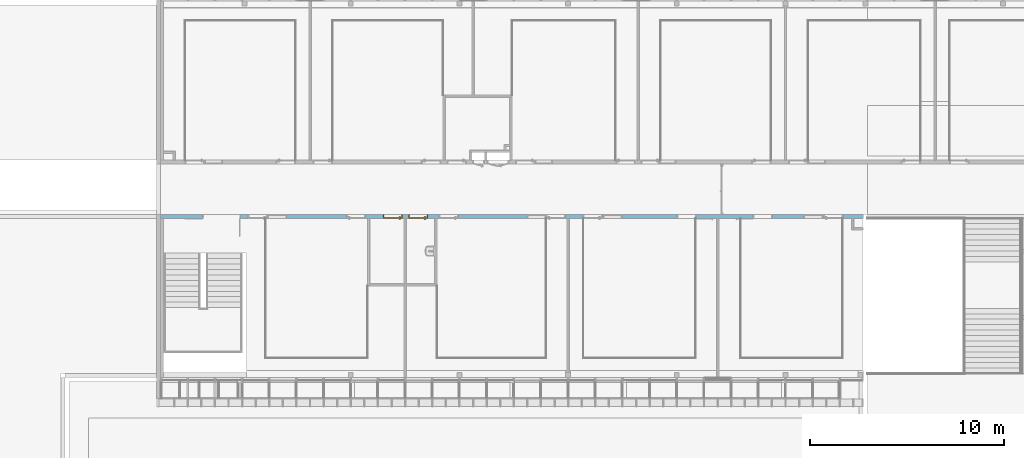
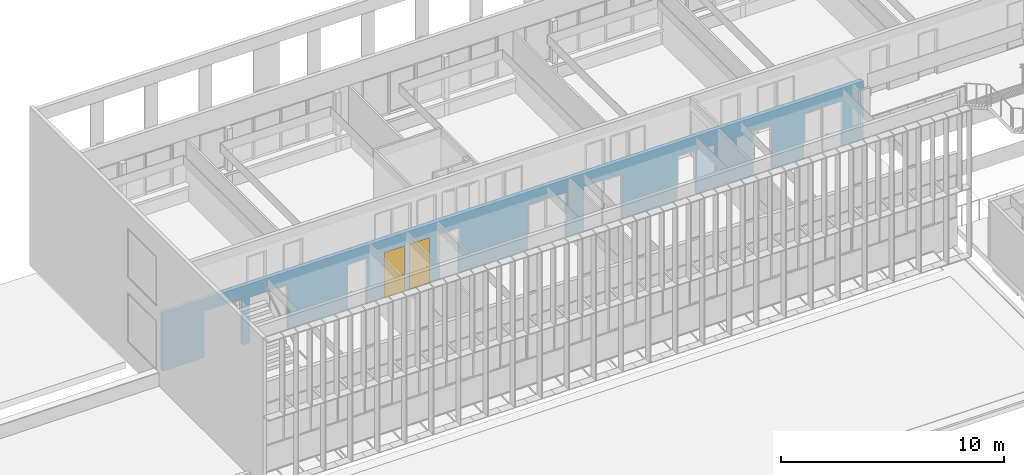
# One storey, part 41 of 106: 2 doors, 15 openings, plus 1 element that does not belong to this part.
"""IFC2X3 building model written with IfcOpenShell, lengths in centimetres."""

import ifcopenshell
import ifcopenshell.guid

model = None  # the IFC model being written
_history = None  # IfcOwnerHistory: only IFC2X3 demands one
_inside = {}  # id of a spatial element -> (the spatial element, [elements in it])
_under = {}  # id of a project, library or spatial element -> (it, [spatial elements below it])
_declared = {}  # id of a project -> (the project, [libraries it declares])
_typed = {}  # id of a type object -> (the type object, [elements of that type])
_made_of = {}  # id of a material, layer set ... -> (it, [elements and type objects made of it])


def new_model(schema):
    """Start an empty IFC model of exactly this schema.

    Asked for "IFC4X3", IfcOpenShell would pick the latest addendum, in which some entities
    have other attributes; the version numbers below select the first issue.
    IFC2X3 requires an IfcOwnerHistory on every rooted entity: one is made here for all.
    """
    global model, _history
    if schema == "IFC4X3":
        model = ifcopenshell.file(schema_version=(4, 3, 0, 0))
    else:
        model = ifcopenshell.file(schema=schema)
    _inside.clear()
    _under.clear()
    _declared.clear()
    _typed.clear()
    _made_of.clear()
    _history = None
    if model.schema == "IFC2X3":
        org = make("IfcOrganization", Name="unknown")
        user = make(
            "IfcPersonAndOrganization",
            ThePerson=make("IfcPerson", FamilyName="unknown"),
            TheOrganization=org,
        )
        app = make(
            "IfcApplication",
            ApplicationDeveloper=org,
            Version="unknown",
            ApplicationFullName="unknown",
            ApplicationIdentifier="unknown",
        )
        _history = make(
            "IfcOwnerHistory",
            OwningUser=user,
            OwningApplication=app,
            ChangeAction="ADDED",
            CreationDate=0,
        )
    return model


def make(cls, **values):
    """One entity of the class cls with the attributes given. An attribute that is None is left unset."""
    return model.create_entity(
        cls, **{name: value for name, value in values.items() if value is not None}
    )


def entity(cls, *values):
    """Any entity or typed value of the class cls, its attributes in the order of the schema. None: left unset."""
    e = model.create_entity(cls)
    for i, value in enumerate(values):
        if value is not None:
            e[i] = value
    return e


def rooted(cls, **values):
    """An entity with a GlobalId (a new one), such as an element, a storey or a relation."""
    return make(cls, GlobalId=ifcopenshell.guid.new(), OwnerHistory=_history, **values)


def si_unit(unit_type, name, prefix=None):
    """IfcSIUnit, for example si_unit("LENGTHUNIT", "METRE", prefix="MILLI")."""
    return make("IfcSIUnit", UnitType=unit_type, Prefix=prefix, Name=name)


def converted_unit(unit_type, name, factor, base, dimensions=None, offset=None):
    """IfcConversionBasedUnit, such as the inch: factor (a typed value) times the base unit."""
    return make(
        "IfcConversionBasedUnit"
        if offset is None
        else "IfcConversionBasedUnitWithOffset",
        ConversionOffset=offset,
        Dimensions=None
        if dimensions is None
        else entity("IfcDimensionalExponents", *dimensions),
        UnitType=unit_type,
        Name=name,
        ConversionFactor=make(
            "IfcMeasureWithUnit", ValueComponent=factor, UnitComponent=base
        ),
    )


def derived_unit(unit_type, elements):
    """IfcDerivedUnit: a product of units, each with its exponent."""
    return make(
        "IfcDerivedUnit",
        Elements=[
            make("IfcDerivedUnitElement", Unit=unit, Exponent=power)
            for unit, power in elements
        ],
        UnitType=unit_type,
    )


def assignment(units):
    """IfcUnitAssignment: the units of a project."""
    return None if units is None else make("IfcUnitAssignment", Units=units)


def point(xyz):
    """IfcCartesianPoint."""
    return None if xyz is None else make("IfcCartesianPoint", Coordinates=xyz)


def direction(xyz):
    """IfcDirection."""
    return None if xyz is None else make("IfcDirection", DirectionRatios=xyz)


def frame(location, z_axis=None, x_axis=None):
    """IfcAxis2Placement3D, a coordinate frame: its origin and axes. An axis left out is left unset."""
    return make(
        "IfcAxis2Placement3D",
        Location=point(location),
        Axis=direction(z_axis),
        RefDirection=direction(x_axis),
    )


def frame_2d(location, x_axis=None):
    """IfcAxis2Placement2D, a coordinate frame in the plane: its origin and x axis."""
    return make(
        "IfcAxis2Placement2D", Location=point(location), RefDirection=direction(x_axis)
    )


def origin():
    """The frame at (0, 0, 0) with its axes left unset."""
    return frame((0.0, 0.0, 0.0))


def place(relative_to, where):
    """IfcLocalPlacement: puts the frame where relative to a parent placement (None: the world)."""
    return make(
        "IfcLocalPlacement", PlacementRelTo=relative_to, RelativePlacement=where
    )


def context(
    kind, dimensions, precision=None, world=None, true_north=None, identifier=None
):
    """IfcGeometricRepresentationContext, for example the 3D "Model" context."""
    return make(
        "IfcGeometricRepresentationContext",
        ContextIdentifier=identifier,
        ContextType=kind,
        CoordinateSpaceDimension=dimensions,
        Precision=precision,
        WorldCoordinateSystem=world,
        TrueNorth=true_north,
    )


def subcontext(parent, identifier, kind, view, scale=None):
    """IfcGeometricRepresentationSubContext, for example "Body" below "Model"."""
    return make(
        "IfcGeometricRepresentationSubContext",
        ContextIdentifier=identifier,
        ContextType=kind,
        ParentContext=parent,
        TargetScale=scale,
        TargetView=view,
    )


def project(units=None, contexts=None):
    """IfcProject with its units and contexts."""
    return rooted(
        "IfcProject",
        Name="project",
        RepresentationContexts=contexts,
        UnitsInContext=assignment(units),
    )


def spatial(cls, under=None, at=None, **own):
    """A site, building, storey or space (cls), placed at a placement, below another one or the project."""
    s = rooted(cls, ObjectPlacement=at, **own)
    if under is not None:
        _under.setdefault(under.id(), (under, []))[1].append(s)
    return s


def polyline(points):
    """IfcPolyline through the points."""
    return make("IfcPolyline", Points=[point(p) for p in points])


def profile(cls, at=None, kind="AREA", **sizes):
    """A parametric profile (cls). Its sizes go by their IFC names, for example OverallWidth=200.0."""
    return make(cls, ProfileType=kind, Position=at, **sizes)


def rectangle(**sizes):
    """IfcRectangleProfileDef."""
    return profile("IfcRectangleProfileDef", **sizes)


def extrude(swept, where, along, depth):
    """IfcExtrudedAreaSolid: the profile swept, set in the frame where, extruded along a direction by depth."""
    return make(
        "IfcExtrudedAreaSolid",
        SweptArea=swept,
        Position=where,
        ExtrudedDirection=direction(along),
        Depth=depth,
    )


def clip(a, b, op="DIFFERENCE"):
    """IfcBooleanClippingResult: the solid a cut by the half space b."""
    return make(
        "IfcBooleanClippingResult", Operator=op, FirstOperand=a, SecondOperand=b
    )


def bounded_halfspace(plane, agree, where, boundary):
    """IfcPolygonalBoundedHalfSpace: a half space limited to a polygon's prism."""
    return make(
        "IfcPolygonalBoundedHalfSpace",
        BaseSurface=make("IfcPlane", Position=plane),
        AgreementFlag=agree,
        Position=where,
        PolygonalBoundary=boundary,
    )


def faces_of(points, faces, orient=None, outer=None):
    """IfcFace entities. A face is a list of loops; a loop is a list of indices into points, from 0.

    orient and outer hold one flag for each loop. By default every Orientation is true, the
    first loop of a face is its IfcFaceOuterBound and the others are IfcFaceBound.
    """
    made = []
    for i, loops in enumerate(faces):
        bounds = []
        for j, loop in enumerate(loops):
            is_outer = j == 0 if outer is None else outer[i][j]
            bounds.append(
                make(
                    "IfcFaceOuterBound" if is_outer else "IfcFaceBound",
                    Bound=make("IfcPolyLoop", Polygon=[points[k] for k in loop]),
                    Orientation=True if orient is None else orient[i][j],
                )
            )
        made.append(make("IfcFace", Bounds=bounds))
    return made


def faceted_brep(points, faces, orient=None, outer=None, voids=None):
    """IfcFacetedBrep: a solid bounded by flat faces; with voids (closed shells), ...WithVoids."""
    shared = [point(p) for p in points]
    hull = make("IfcClosedShell", CfsFaces=faces_of(shared, faces, orient, outer))
    if voids is None:
        return make("IfcFacetedBrep", Outer=hull)
    return make(
        "IfcFacetedBrepWithVoids",
        Outer=hull,
        Voids=[
            make(cls, CfsFaces=faces_of(shared, fs, o, b)) for cls, fs, o, b in voids
        ],
    )


def shape(context_of_items, identifier, shape_type, items):
    """IfcShapeRepresentation: the items that make up one representation, for example the "Body"."""
    return make(
        "IfcShapeRepresentation",
        ContextOfItems=context_of_items,
        RepresentationIdentifier=identifier,
        RepresentationType=shape_type,
        Items=items,
    )


def source(mapping_origin, context_of_items, identifier, shape_type, items):
    """IfcRepresentationMap: a shape defined once, which mapped items show again and again."""
    return make(
        "IfcRepresentationMap",
        MappingOrigin=mapping_origin,
        MappedRepresentation=shape(context_of_items, identifier, shape_type, items),
    )


def transform(
    local_origin,
    x_axis=None,
    y_axis=None,
    z_axis=None,
    scale=None,
    scale2=None,
    scale3=None,
    uniform=True,
):
    """IfcCartesianTransformationOperator3D, or its non-uniform kind. x_axis, y_axis, z_axis: its Axis1, 2, 3."""
    if uniform:
        return make(
            "IfcCartesianTransformationOperator3D",
            Axis1=direction(x_axis),
            Axis2=direction(y_axis),
            LocalOrigin=point(local_origin),
            Scale=scale,
            Axis3=direction(z_axis),
        )
    return make(
        "IfcCartesianTransformationOperator3DnonUniform",
        Axis1=direction(x_axis),
        Axis2=direction(y_axis),
        LocalOrigin=point(local_origin),
        Scale=scale,
        Axis3=direction(z_axis),
        Scale2=scale2,
        Scale3=scale3,
    )


def mapped(mapping_source, mapping_target):
    """IfcMappedItem: shows the shape of a source again, moved by a transform."""
    return make(
        "IfcMappedItem", MappingSource=mapping_source, MappingTarget=mapping_target
    )


def material(Name=None, Category=None):
    """IfcMaterial."""
    return make("IfcMaterial", Name=Name, Category=Category)


def material_list(materials):
    """IfcMaterialList."""
    return make("IfcMaterialList", Materials=materials)


def layer(
    of_material, thickness, ventilated=None, Name=None, Category=None, Priority=None
):
    """IfcMaterialLayer: one layer of a wall or slab, of a material (None: an air gap)."""
    return make(
        "IfcMaterialLayer",
        Material=of_material,
        LayerThickness=thickness,
        IsVentilated=ventilated,
        Name=Name,
        Category=Category,
        Priority=Priority,
    )


def layer_set(layers, Name=None):
    """IfcMaterialLayerSet."""
    return make("IfcMaterialLayerSet", MaterialLayers=layers, LayerSetName=Name)


def layer_usage(for_layer_set, set_direction, sense, offset, extent=None):
    """IfcMaterialLayerSetUsage: how a layer set lies in its element."""
    return make(
        "IfcMaterialLayerSetUsage",
        ForLayerSet=for_layer_set,
        LayerSetDirection=set_direction,
        DirectionSense=sense,
        OffsetFromReferenceLine=offset,
        ReferenceExtent=extent,
    )


def made_of(thing, what):
    """Note that an element or type object is made of a material, layer set ...; save() writes the relation."""
    if what is not None:
        _made_of.setdefault(what.id(), (what, []))[1].append(thing)
    return thing


def type_object(cls, material=None, **own):
    """A type object (cls), such as IfcWallType, which elements share."""
    return made_of(rooted(cls, **own), material)


def type_shapes(of_type, sources):
    """Give a type object the sources (RepresentationMaps) that its elements show as mapped items."""
    of_type.RepresentationMaps = sources


def element(
    cls,
    number,
    at=None,
    inside=None,
    cuts=None,
    type_object=None,
    material=None,
    context=None,
    identifier="Body",
    shape_type=None,
    held_by="IfcProductDefinitionShape",
    body=None,
    shapes=None,
    **own,
):
    """One element of the class cls, such as IfcWall. Its Tag is "e" and its number.

    at: its placement. inside: the storey or other place that contains it. cuts: it is an
    opening in that element (IfcRelVoidsElement). A single representation is given by context,
    identifier, shape_type and body (its items); several are given by shapes. held_by: the class
    of the entity that holds the representations. save() writes the other relations.
    """
    e = rooted(cls, Tag="e%d" % number, ObjectPlacement=at, **own)
    if body is not None:
        shapes = [shape(context, identifier, shape_type, body)]
    if shapes is not None:
        e.Representation = make(held_by, Representations=shapes)
    if inside is not None:
        _inside.setdefault(inside.id(), (inside, []))[1].append(e)
    if cuts is not None:
        rooted(
            "IfcRelVoidsElement", RelatingBuildingElement=cuts, RelatedOpeningElement=e
        )
    if type_object is not None:
        _typed.setdefault(type_object.id(), (type_object, []))[1].append(e)
    return made_of(e, material)


def fill(opening, filler):
    """IfcRelFillsElement: the door or window that sits in an opening."""
    return rooted(
        "IfcRelFillsElement",
        RelatingOpeningElement=opening,
        RelatedBuildingElement=filler,
    )


def aggregate(whole, parts):
    """IfcRelAggregates: a whole, such as a stair, and the parts it consists of."""
    return rooted("IfcRelAggregates", RelatingObject=whole, RelatedObjects=parts)


def save(model, path):
    """Write the relations noted so far, then the file.

    IfcRelAggregates (storeys below a building ...), IfcRelContainedInSpatialStructure (elements
    in a storey), IfcRelDefinesByType, IfcRelAssociatesMaterial and IfcRelDeclares: one each for
    every whole, place, type object, material and project.
    """
    for whole, parts in _under.values():
        aggregate(whole, parts)
    for where, things in _inside.values():
        rooted(
            "IfcRelContainedInSpatialStructure",
            RelatedElements=things,
            RelatingStructure=where,
        )
    for kind, things in _typed.values():
        rooted("IfcRelDefinesByType", RelatedObjects=things, RelatingType=kind)
    for what, things in _made_of.values():
        rooted("IfcRelAssociatesMaterial", RelatedObjects=things, RelatingMaterial=what)
    for by, libraries in _declared.values():
        rooted("IfcRelDeclares", RelatingContext=by, RelatedDefinitions=libraries)
    model.write(path)


model = new_model("IFC2X3")

# Units and contexts
model_context = context("Model", 3, precision=0.001, world=origin(), true_north=direction((6.12303176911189e-17, 1.0)))
body_context = subcontext(model_context, "Body", "Model", "MODEL_VIEW")
ifc_project = project(units=[si_unit("LENGTHUNIT", "METRE", prefix="CENTI"), si_unit("AREAUNIT", "SQUARE_METRE"), si_unit("VOLUMEUNIT", "CUBIC_METRE"), converted_unit("PLANEANGLEUNIT", "DEGREE", entity("IfcRatioMeasure", 0.0174532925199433), si_unit("PLANEANGLEUNIT", "RADIAN"), dimensions=[0, 0, 0, 0, 0, 0, 0]), si_unit("MASSUNIT", "GRAM", prefix="KILO"), derived_unit("MASSDENSITYUNIT", [(si_unit("MASSUNIT", "GRAM", prefix="KILO"), 1), (si_unit("LENGTHUNIT", "METRE"), -3)]), si_unit("TIMEUNIT", "SECOND"), si_unit("FREQUENCYUNIT", "HERTZ"), si_unit("THERMODYNAMICTEMPERATUREUNIT", "DEGREE_CELSIUS"), derived_unit("THERMALTRANSMITTANCEUNIT", [(si_unit("MASSUNIT", "GRAM", prefix="KILO"), 1), (si_unit("THERMODYNAMICTEMPERATUREUNIT", "KELVIN"), -1), (si_unit("TIMEUNIT", "SECOND"), -3)]), derived_unit("VOLUMETRICFLOWRATEUNIT", [(si_unit("LENGTHUNIT", "METRE"), 3), (si_unit("TIMEUNIT", "SECOND"), -1)]), si_unit("ELECTRICCURRENTUNIT", "AMPERE"), si_unit("ELECTRICVOLTAGEUNIT", "VOLT"), si_unit("POWERUNIT", "WATT"), si_unit("FORCEUNIT", "NEWTON", prefix="KILO"), si_unit("ILLUMINANCEUNIT", "LUX"), si_unit("LUMINOUSFLUXUNIT", "LUMEN"), si_unit("LUMINOUSINTENSITYUNIT", "CANDELA"), derived_unit("USERDEFINED", [(si_unit("MASSUNIT", "GRAM", prefix="KILO"), -1), (si_unit("LENGTHUNIT", "METRE"), -2), (si_unit("TIMEUNIT", "SECOND"), 3), (si_unit("LUMINOUSFLUXUNIT", "LUMEN"), 1)]), derived_unit("LINEARVELOCITYUNIT", [(si_unit("LENGTHUNIT", "METRE"), 1), (si_unit("TIMEUNIT", "SECOND"), -1)]), si_unit("PRESSUREUNIT", "PASCAL"), derived_unit("USERDEFINED", [(si_unit("LENGTHUNIT", "METRE"), -2), (si_unit("MASSUNIT", "GRAM", prefix="KILO"), 1), (si_unit("TIMEUNIT", "SECOND"), -2)])], contexts=[model_context])

# Site, building, storey
site_placement = place(None, frame((-2781.94577612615, 7442.24238424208, 0.0)))
site = spatial("IfcSite", under=ifc_project, at=site_placement, Name="Default", CompositionType="ELEMENT")
building_placement = place(site_placement, origin())
building = spatial("IfcBuilding", under=site, at=building_placement, CompositionType="ELEMENT")
storey_placement = place(building_placement, frame((0.0, 0.0, 422.0)))
storey = spatial("IfcBuildingStorey", under=building, at=storey_placement, Name="Toiture - Cuisine", CompositionType="ELEMENT", Elevation=421.999999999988)

# Wall, openings, doors
ifc_material_1 = material(Name="01 - Maçonnerie")
ifc_layer = layer(ifc_material_1, 20.0)
ifc_layer_set = layer_set([ifc_layer], Name="Mur de base:04 - Structure - béton - 20cm")
ifc_layer_usage = layer_usage(ifc_layer_set, "AXIS2", "NEGATIVE", 10.0)
wall_type = type_object("IfcWallType", Name="Mur de base:04 - Structure - béton - 20cm", PredefinedType="STANDARD", material=ifc_layer_set)
wall_placement = place(building_placement, frame((-4787.99987760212, -1100.0, 422.0), z_axis=(0.0, 0.0, 1.0), x_axis=(-1.0, 0.0, 0.0)))
wall = element("IfcWallStandardCase", 1, at=wall_placement, inside=storey, type_object=wall_type, material=ifc_layer_usage, Name="Mur de base:04 - Structure - béton - 20cm", ObjectType="Mur de base:04 - Structure - béton - 20cm", context=body_context, shape_type="Clipping", body=[
    clip(extrude(rectangle(XDim=3621.50000006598, YDim=20.0000000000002, at=frame_2d((1810.75000003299, 5.32907051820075e-14), x_axis=(-1.0, 0.0))), origin(), (0.0, 0.0, 1.0), 321.0), bounded_halfspace(frame((4.0, -10.0, 321.0), z_axis=(0.0, 0.0, -1.0), x_axis=(0.0, -1.0, 0.0)), True, frame((4.0, -10.0, 321.0)), polyline([(0.0, 0.0), (720.0, 0.0), (730.0, 0.0), (3617.50000006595, 0.0), (3617.50000006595, 20.0), (3602.20000006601, 20.0), (3077.50016406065, 20.0), (3075.50016406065, 20.0), (2550.5, 20.0), (2540.5, 20.0), (2362.50000003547, 20.0), (2352.50000003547, 20.0), (2203.5, 20.0), (2193.5, 20.0), (1632.5, 20.0), (1630.5, 20.0), (1522.50016406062, 20.0), (1512.50016406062, 20.0), (1440.5, 20.0), (1438.5, 20.0), (862.500000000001, 20.0), (860.5, 20.0), (750.500000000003, 20.0), (740.500000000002, 20.0), (630.500000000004, 20.0), (628.500000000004, 20.0), (104.500000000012, 20.0), (102.500000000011, 20.0), (56.0, 20.0), (46.0, 20.0), (0.0, 20.0), (0.0, 0.0)]))),
])
opening_1_placement = place(wall_placement, frame((3071.50016406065, -10.0, 0.0)))
element("IfcOpeningElement", 2, at=opening_1_placement, cuts=wall, Name="Int. Simple:PV (0.93m x 2.50m):1", ObjectType="Opening", context=body_context, shape_type="SweptSolid", body=[
    extrude(rectangle(XDim=248.500000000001, YDim=99.9999999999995, at=frame_2d((124.250000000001, 49.9999999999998), x_axis=(1.0, 0.0))), frame((0.0, 0.0, 0.0), z_axis=(0.0, 1.0, 0.0), x_axis=(0.0, 0.0, 1.0)), (0.0, 0.0, 1.0), 20.0),
])
opening_2_placement = place(wall_placement, frame((1534.5, -10.0, 0.0)))
element("IfcOpeningElement", 3, at=opening_2_placement, cuts=wall, Name="Int. Simple:PV (0.93m x 2.50m):1", ObjectType="Opening", context=body_context, shape_type="SweptSolid", body=[
    extrude(rectangle(XDim=248.500000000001, YDim=99.9999999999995, at=frame_2d((124.250000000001, 50.0), x_axis=(1.0, 0.0))), frame((0.0, 0.0, 0.0), z_axis=(0.0, 1.0, 0.0), x_axis=(0.0, 0.0, 1.0)), (0.0, 0.0, 1.0), 20.0),
])
opening_3_placement = place(wall_placement, frame((861.500000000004, -10.0, 0.0)))
element("IfcOpeningElement", 4, at=opening_3_placement, cuts=wall, Name="Int. Simple:PV (0.93m x 2.50m):1", ObjectType="Opening", context=body_context, shape_type="SweptSolid", body=[
    extrude(rectangle(XDim=248.500000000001, YDim=99.9999999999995, at=frame_2d((124.250000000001, 50.0), x_axis=(1.0, 0.0))), frame((0.0, 0.0, 0.0), z_axis=(0.0, 1.0, 0.0), x_axis=(0.0, 0.0, 1.0)), (0.0, 0.0, 1.0), 20.0),
])
opening_4_placement = place(wall_placement, frame((469.500000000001, -10.0, 0.0)))
element("IfcOpeningElement", 5, at=opening_4_placement, cuts=wall, Name="Int. Simple:PV (0.93m x 2.50m):1", ObjectType="Opening", context=body_context, shape_type="SweptSolid", body=[
    extrude(rectangle(XDim=248.500000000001, YDim=99.9999999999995, at=frame_2d((124.250000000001, 49.9999999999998), x_axis=(1.0, 0.0))), frame((0.0, 0.0, 0.0), z_axis=(0.0, 1.0, 0.0), x_axis=(0.0, 0.0, 1.0)), (0.0, 0.0, 1.0), 20.0),
])
opening_5_placement = place(wall_placement, frame((2971.50016406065, -10.0, 0.0)))
element("IfcOpeningElement", 6, at=opening_5_placement, cuts=wall, Name="châssis intérieur vitré:châssis intérieur vitré (h=270) R+1:1", ObjectType="Opening", context=body_context, shape_type="SweptSolid", body=[
    extrude(rectangle(XDim=250.0, YDim=99.9999999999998, at=frame_2d((125.0, 49.9999999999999), x_axis=(1.0, 0.0))), frame((0.0, 0.0, 0.0), z_axis=(0.0, 1.0, 0.0), x_axis=(0.0, 0.0, 1.0)), (0.0, 0.0, 1.0), 20.0),
])
opening_6_placement = place(wall_placement, frame((1634.50000000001, -10.0, 0.0)))
element("IfcOpeningElement", 7, at=opening_6_placement, cuts=wall, Name="châssis intérieur vitré:châssis intérieur vitré (h=270) R+1:1", ObjectType="Opening", context=body_context, shape_type="SweptSolid", body=[
    extrude(rectangle(XDim=250.0, YDim=99.9999999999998, at=frame_2d((125.0, 49.9999999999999), x_axis=(1.0, 0.0))), frame((0.0, 0.0, 0.0), z_axis=(0.0, 1.0, 0.0), x_axis=(0.0, 0.0, 1.0)), (0.0, 0.0, 1.0), 20.0),
])
opening_7_placement = place(wall_placement, frame((1243.0, -10.0, 0.0)))
element("IfcOpeningElement", 8, at=opening_7_placement, cuts=wall, Name="châssis intérieur vitré:châssis intérieur vitré (h=270) R+1:1", ObjectType="Opening", context=body_context, shape_type="SweptSolid", body=[
    extrude(rectangle(XDim=250.0, YDim=99.9999999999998, at=frame_2d((125.0, 49.9999999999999), x_axis=(1.0, 0.0))), frame((0.0, 0.0, 0.0), z_axis=(0.0, 1.0, 0.0), x_axis=(0.0, 0.0, 1.0)), (0.0, 0.0, 1.0), 20.0),
])
opening_8_placement = place(wall_placement, frame((208.0, -10.0, 0.0)))
element("IfcOpeningElement", 9, at=opening_8_placement, cuts=wall, Name="châssis intérieur vitré:châssis intérieur vitré (h=270) R+1:1", ObjectType="Opening", context=body_context, shape_type="SweptSolid", body=[
    extrude(rectangle(XDim=250.0, YDim=99.9999999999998, at=frame_2d((125.0, 49.9999999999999), x_axis=(1.0, 0.0))), frame((0.0, 0.0, 0.0), z_axis=(0.0, 1.0, 0.0), x_axis=(0.0, 0.0, 1.0)), (0.0, 0.0, 1.0), 20.0),
])
opening_9_placement = place(wall_placement, frame((2564.5, -10.0, 0.0)))
element("IfcOpeningElement", 10, at=opening_9_placement, cuts=wall, Name="Int. Simple:PV (0.93m x 2.50m):1", ObjectType="Opening", context=body_context, shape_type="SweptSolid", body=[
    extrude(rectangle(XDim=248.500000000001, YDim=99.9999999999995, at=frame_2d((124.250000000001, 50.0), x_axis=(1.0, 0.0))), frame((0.0, 0.0, 0.0), z_axis=(0.0, 1.0, 0.0), x_axis=(0.0, 0.0, 1.0)), (0.0, 0.0, 1.0), 20.0),
])
opening_10_placement = place(wall_placement, frame((2374.5, -10.0, 0.0)))
opening_10 = element("IfcOpeningElement", 11, at=opening_10_placement, cuts=wall, Name="Int. Simple:PP simple (0.93m x 2.50m):1", ObjectType="Opening", context=body_context, shape_type="SweptSolid", body=[
    extrude(rectangle(XDim=248.500000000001, YDim=99.9999999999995, at=frame_2d((124.250000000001, 49.9999999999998), x_axis=(1.0, 0.0))), frame((0.0, 0.0, 0.0), z_axis=(0.0, 1.0, 0.0), x_axis=(0.0, 0.0, 1.0)), (0.0, 0.0, 1.0), 20.0),
])
opening_11_placement = place(wall_placement, frame((2244.5, -10.0, 0.0)))
opening_11 = element("IfcOpeningElement", 12, at=opening_11_placement, cuts=wall, Name="Int. Simple:PP simple (0.93m x 2.50m):1", ObjectType="Opening", context=body_context, shape_type="SweptSolid", body=[
    extrude(rectangle(XDim=248.500000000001, YDim=99.9999999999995, at=frame_2d((124.250000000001, 49.9999999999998), x_axis=(1.0, 0.0))), frame((0.0, 0.0, 0.0), z_axis=(0.0, 1.0, 0.0), x_axis=(0.0, 0.0, 1.0)), (0.0, 0.0, 1.0), 20.0),
])
opening_12_placement = place(wall_placement, frame((2087.5, -10.0, 0.0)))
element("IfcOpeningElement", 13, at=opening_12_placement, cuts=wall, Name="Int. Simple:PV (0.93m x 2.50m):1", ObjectType="Opening", context=body_context, shape_type="SweptSolid", body=[
    extrude(rectangle(XDim=248.500000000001, YDim=99.9999999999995, at=frame_2d((124.250000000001, 49.9999999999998), x_axis=(1.0, 0.0))), frame((0.0, 0.0, 0.0), z_axis=(0.0, 1.0, 0.0), x_axis=(0.0, 0.0, 1.0)), (0.0, 0.0, 1.0), 20.0),
])
opening_13_placement = place(wall_placement, frame((1344.5, -10.0, 0.0)))
element("IfcOpeningElement", 14, at=opening_13_placement, cuts=wall, Name="Int. Simple:PV (0.93m x 2.50m):1", ObjectType="Opening", context=body_context, shape_type="SweptSolid", body=[
    extrude(rectangle(XDim=248.500000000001, YDim=99.9999999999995, at=frame_2d((124.250000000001, 49.9999999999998), x_axis=(1.0, 0.0))), frame((0.0, 0.0, 0.0), z_axis=(0.0, 1.0, 0.0), x_axis=(0.0, 0.0, 1.0)), (0.0, 0.0, 1.0), 20.0),
])
opening_14_placement = place(wall_placement, frame((106.500000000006, -10.0, 0.0)))
element("IfcOpeningElement", 15, at=opening_14_placement, cuts=wall, Name="Int. Simple:PV (0.93m x 2.50m):1", ObjectType="Opening", context=body_context, shape_type="SweptSolid", body=[
    extrude(rectangle(XDim=248.500000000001, YDim=99.9999999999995, at=frame_2d((124.250000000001, 50.0), x_axis=(1.0, 0.0))), frame((0.0, 0.0, 0.0), z_axis=(0.0, 1.0, 0.0), x_axis=(0.0, 0.0, 1.0)), (0.0, 0.0, 1.0), 20.0),
])
opening_15_placement = place(wall_placement, frame((3208.50000000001, -10.0, 0.0)))
element("IfcOpeningElement", 16, at=opening_15_placement, cuts=wall, Name="Int. Double:PP (1.90m x 2.50m):1", ObjectType="Opening", context=body_context, shape_type="SweptSolid", body=[
    extrude(rectangle(XDim=253.500000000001, YDim=197.0, at=frame_2d((126.750000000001, 98.5), x_axis=(1.0, 0.0))), frame((0.0, 0.0, 0.0), z_axis=(0.0, 1.0, 0.0), x_axis=(0.0, 0.0, 1.0)), (0.0, 0.0, 1.0), 20.0),
])
ifc_material_2 = material(Name="Finition Peinture - Blanc satiné")
ifc_material_3 = material(Name="Bois - Panneau de porte")
ifc_material_4 = material(Name="Bois - Cadre de porte")
ifc_material_list_1 = material_list([ifc_material_2, ifc_material_3, ifc_material_4])
ifc_material_list_2 = material_list([ifc_material_2, ifc_material_3, ifc_material_4])
door_style = type_object("IfcDoorStyle", Name="PP simple (0.93m x 2.50m)", ConstructionType="NOTDEFINED", OperationType="SINGLE_SWING_RIGHT", ParameterTakesPrecedence=False, Sizeable=False, material=ifc_material_list_2)
shared_shape = source(origin(), body_context, "Body", "Brep", [
    faceted_brep([(99.5000000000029, -0.500000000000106, 87.0), (99.5000000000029, -0.500000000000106, 108.0), (98.535276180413, -0.500000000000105, 108.399601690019), (97.5000000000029, -0.500000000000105, 108.535898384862), (96.4647238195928, -0.500000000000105, 108.399601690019), (95.500000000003, -0.500000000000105, 108.0), (95.5000000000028, -0.500000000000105, 87.0), (96.4647238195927, -0.500000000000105, 86.6003983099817), (97.5000000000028, -0.500000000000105, 86.464101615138), (98.5352761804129, -0.500000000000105, 86.6003983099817), (99.5000000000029, 0.0, 108.0), (99.5000000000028, 0.0, 87.0), (98.5352761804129, 0.0, 86.6003983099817), (97.5000000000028, 0.0, 86.464101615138), (96.4647238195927, 0.0, 86.6003983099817), (95.5000000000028, 0.0, 87.0), (95.5000000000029, 0.0, 108.0), (96.4647238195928, 0.0, 108.399601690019), (97.5000000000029, 0.0, 108.535898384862), (98.535276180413, 0.0, 108.399601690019)], [[[0, 1, 2, 3, 4, 5, 6, 7, 8, 9]], [[10, 11, 12, 13, 14, 15, 16, 17, 18, 19]], [[9, 12, 11, 0]], [[8, 13, 12, 9]], [[7, 14, 13, 8]], [[7, 6, 15, 14]], [[15, 6, 5, 16]], [[4, 17, 16, 5]], [[3, 18, 17, 4]], [[2, 19, 18, 3]], [[2, 1, 10, 19]], [[11, 10, 1, 0]]]),
    faceted_brep([(99.5000000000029, 4.0, 87.0), (99.5000000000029, 4.0, 108.0), (98.535276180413, 4.0, 108.399601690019), (97.5000000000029, 4.0, 108.535898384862), (96.4647238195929, 4.0, 108.399601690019), (95.500000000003, 4.0, 108.0), (95.5000000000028, 4.0, 87.0), (96.4647238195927, 4.0, 86.6003983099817), (97.5000000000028, 4.0, 86.464101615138), (98.5352761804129, 4.0, 86.6003983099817), (97.5000000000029, 4.49999999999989, 108.535898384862), (98.535276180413, 4.49999999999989, 108.399601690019), (99.5000000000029, 4.49999999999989, 108.0), (99.5000000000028, 4.49999999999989, 87.0), (98.5352761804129, 4.49999999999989, 86.6003983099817), (97.5000000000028, 4.49999999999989, 86.464101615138), (96.4647238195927, 4.49999999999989, 86.6003983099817), (95.5000000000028, 4.49999999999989, 87.0), (95.500000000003, 4.49999999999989, 108.0), (96.4647238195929, 4.49999999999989, 108.399601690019)], [[[0, 1, 2, 3, 4, 5, 6, 7, 8, 9]], [[10, 11, 12, 13, 14, 15, 16, 17, 18, 19]], [[4, 19, 18, 5]], [[3, 10, 19, 4]], [[2, 11, 10, 3]], [[2, 1, 12, 11]], [[13, 12, 1, 0]], [[9, 14, 13, 0]], [[8, 15, 14, 9]], [[7, 16, 15, 8]], [[7, 6, 17, 16]], [[17, 6, 5, 18]]]),
    faceted_brep([(97.2974701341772, -0.500000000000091, 100.778044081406), (97.7025298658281, -0.500000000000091, 100.778044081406), (98.1000000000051, -0.500000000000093, 100.699999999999), (98.100000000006, -0.500000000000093, 99.2999999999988), (97.7025298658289, -0.500000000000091, 99.221955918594), (97.297470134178, -0.500000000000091, 99.2219559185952), (96.9000000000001, -0.500000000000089, 99.3000000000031), (96.9000000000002, -0.500000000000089, 100.7), (97.7025298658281, -3.10045754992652, 100.778044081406), (98.1000000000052, -3.26509507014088, 100.7), (97.2974701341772, -2.93267631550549, 100.778044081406), (95.9298602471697, -4.30028620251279, 100.778044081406), (96.0976414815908, -4.70534593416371, 100.778044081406), (96.9000000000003, -2.76803879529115, 100.7), (96.9000000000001, -2.76803879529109, 99.3000000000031), (97.297470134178, -2.93267631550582, 99.2219559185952), (97.7025298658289, -3.10045754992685, 99.221955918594), (96.0976414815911, -4.70534593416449, 99.221955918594), (95.9298602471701, -4.30028620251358, 99.2219559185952), (98.100000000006, -3.26509507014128, 99.2999999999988), (96.2622790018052, -5.1028160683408, 100.7), (95.7652227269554, -3.90281606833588, 100.7), (95.7652227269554, -3.90281606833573, 99.3000000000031), (96.2622790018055, -5.10281606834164, 99.2999999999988), (87.4981359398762, -5.10281606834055, 100.7), (87.4981359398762, -4.70534593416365, 100.778044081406), (87.4981359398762, -4.30028620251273, 100.778044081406), (87.4981359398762, -3.90281606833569, 100.699999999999), (87.4981359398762, -3.90281606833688, 99.3000000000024), (87.4981359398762, -4.30028620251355, 99.2219559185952), (87.4981359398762, -4.70534593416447, 99.221955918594), (87.4981359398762, -5.10281606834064, 99.2999999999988), (91.7139980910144, -4.5028160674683, 100.78786867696), (92.2692302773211, -5.1028160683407, 100.7), (91.6316793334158, -3.9028160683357, 100.7), (91.631679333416, -3.90281606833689, 99.3000000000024), (91.7139981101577, -4.50281607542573, 99.2121313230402), (92.2692310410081, -5.10281606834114, 99.2999999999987)], [[[0, 1, 2, 3, 4, 5, 6, 7]], [[2, 1, 8, 9]], [[1, 0, 10, 11, 12, 8]], [[0, 7, 13, 10]], [[14, 13, 7, 6]], [[5, 15, 14, 6]], [[5, 4, 16, 17, 18, 15]], [[3, 19, 16, 4]], [[9, 19, 3, 2]], [[9, 8, 12, 20]], [[10, 13, 21, 11]], [[22, 21, 13, 14]], [[14, 15, 18, 22]], [[16, 19, 23, 17]], [[20, 23, 19, 9]], [[24, 25, 26, 27, 28, 29, 30, 31]], [[32, 25, 33]], [[33, 25, 24]], [[33, 20, 12]], [[11, 34, 32]], [[34, 11, 21]], [[27, 26, 34]], [[32, 26, 25]], [[32, 34, 26]], [[32, 33, 12]], [[11, 32, 12]], [[21, 22, 35, 28, 27, 34]], [[36, 29, 35]], [[30, 36, 37]], [[18, 35, 22]], [[29, 28, 35]], [[30, 37, 31]], [[37, 17, 23]], [[36, 17, 37]], [[36, 18, 17]], [[36, 35, 18]], [[29, 36, 30]], [[23, 20, 33, 24, 31, 37]]]),
    faceted_brep([(97.2974701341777, 4.49999999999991, 99.2219559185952), (97.7025298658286, 4.49999999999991, 99.221955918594), (98.1000000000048, 4.4999999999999, 99.2999999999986), (98.1000000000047, 4.4999999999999, 100.7), (97.7025298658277, 4.49999999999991, 100.778044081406), (97.2974701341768, 4.49999999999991, 100.778044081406), (96.8999999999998, 4.49999999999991, 100.7), (96.900000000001, 4.49999999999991, 99.3000000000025), (96.8999999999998, 6.7485204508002, 100.7), (96.8999999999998, 6.74852045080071, 99.3000000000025), (97.2974701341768, 6.91315797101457, 100.778044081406), (97.7025298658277, 7.0809392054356, 100.778044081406), (96.0838906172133, 8.69957845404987, 100.778044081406), (95.9161093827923, 8.29451872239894, 100.778044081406), (98.1000000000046, 7.24557672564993, 100.7), (98.1000000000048, 7.24557672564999, 99.2999999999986), (97.7025298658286, 7.08093920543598, 99.221955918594), (97.2974701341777, 6.91315797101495, 99.2219559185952), (95.9161093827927, 8.29451872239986, 99.2219559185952), (96.0838906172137, 8.69957845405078, 99.221955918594), (95.751471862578, 7.89704858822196, 100.7), (95.7514718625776, 7.89704858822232, 99.3000000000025), (96.2485281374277, 9.09704858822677, 100.7), (96.2485281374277, 9.09704858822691, 99.2999999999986), (87.4954216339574, 8.29451872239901, 100.778044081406), (87.4954216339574, 8.69957845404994, 100.778044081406), (87.4954216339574, 9.09704858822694, 100.7), (87.4954216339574, 9.09704858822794, 99.2999999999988), (87.4954216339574, 8.6995784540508, 99.221955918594), (87.4954216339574, 8.29451872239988, 99.2219559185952), (87.4954216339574, 7.89704858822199, 99.3000000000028), (87.4954216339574, 7.89704858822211, 100.7), (91.6234467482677, 7.89704858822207, 100.7), (91.6234479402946, 7.89704858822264, 99.3000000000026), (91.7057655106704, 8.49704858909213, 100.78786867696), (92.255479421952, 9.09704858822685, 100.7), (92.2554795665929, 9.09704858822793, 99.2999999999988), (91.7057654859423, 8.49704858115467, 99.2121313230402)], [[[0, 1, 2, 3, 4, 5, 6, 7]], [[8, 9, 7, 6]], [[5, 10, 8, 6]], [[5, 4, 11, 12, 13, 10]], [[3, 14, 11, 4]], [[14, 3, 2, 15]], [[2, 1, 16, 15]], [[1, 0, 17, 18, 19, 16]], [[0, 7, 9, 17]], [[20, 21, 9, 8]], [[8, 10, 13, 20]], [[14, 22, 12, 11]], [[23, 22, 14, 15]], [[15, 16, 19, 23]], [[17, 9, 21, 18]], [[24, 25, 26, 27, 28, 29, 30, 31]], [[21, 20, 32, 31, 30, 33]], [[34, 24, 32]], [[25, 34, 35]], [[13, 32, 20]], [[24, 31, 32]], [[25, 35, 26]], [[35, 12, 22]], [[34, 12, 35]], [[34, 13, 12]], [[34, 32, 13]], [[24, 34, 25]], [[22, 23, 36, 27, 26, 35]], [[37, 28, 36]], [[36, 28, 27]], [[36, 23, 19]], [[18, 33, 37]], [[33, 18, 21]], [[30, 29, 33]], [[37, 29, 28]], [[37, 33, 29]], [[37, 36, 19]], [[18, 37, 19]]]),
    faceted_brep([(103.500000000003, 4.0, 245.0), (103.500000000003, 4.0, 0.0), (10.5000000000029, 4.0, 0.0), (10.5000000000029, 4.0, 245.0), (103.500000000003, 0.0, 245.0), (10.5000000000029, 0.0, 245.0), (10.5000000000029, 0.0, 0.0), (103.500000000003, 0.0, 0.0)], [[[0, 1, 2, 3]], [[4, 5, 6, 7]], [[3, 5, 4, 0]], [[2, 6, 5, 3]], [[1, 7, 6, 2]], [[0, 4, 7, 1]]]),
    faceted_brep([(107.0, 20.0, 0.0), (107.0, 0.0, 0.0), (108.500000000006, 0.0, 0.0), (108.500000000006, -0.500000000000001, 0.0), (103.500000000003, -0.500000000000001, 0.0), (103.500000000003, 4.0, 0.0), (102.0, 4.0, 0.0), (102.0, 20.5000000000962, 0.0), (108.500000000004, 20.5000000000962, 0.0), (108.500000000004, 20.0, 0.0), (107.0, 20.0, 248.500000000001), (107.0, 0.0, 248.500000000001), (108.500000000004, 20.0, 250.0), (5.50000000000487, 20.0, 250.0), (5.50000000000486, 20.0, 0.0), (7.0, 20.0, 0.0), (7.0, 20.0, 248.500000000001), (102.0, 4.0, 243.5), (102.0, 20.5000000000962, 243.5), (103.500000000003, 4.0, 245.0), (10.5000000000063, 4.0, 245.0), (10.5000000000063, 4.0, 0.0), (12.0, 4.0, 0.0), (12.0, 4.0, 243.5), (7.0, 0.0, 0.0), (7.0, 0.0, 248.500000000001), (5.50000000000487, 20.5000000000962, 0.0), (12.0, 20.5000000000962, 0.0), (10.5000000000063, -0.500000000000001, 0.0), (5.5000000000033, -0.500000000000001, 0.0), (5.5000000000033, 0.0, 0.0), (12.0, 20.5000000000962, 243.5), (103.500000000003, -0.500000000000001, 245.0), (108.500000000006, -0.500000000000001, 250.0), (5.5000000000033, -0.500000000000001, 250.0), (10.5000000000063, -0.500000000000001, 245.0), (108.500000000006, 0.0, 250.0), (5.50000000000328, 0.0, 250.0), (108.500000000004, 20.5000000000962, 250.0), (5.50000000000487, 20.5000000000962, 250.0)], [[[0, 1, 2, 3, 4, 5, 6, 7, 8, 9]], [[0, 10, 11, 1]], [[9, 12, 13, 14, 15, 16, 10, 0]], [[7, 6, 17, 18]], [[5, 19, 20, 21, 22, 23, 17, 6]], [[16, 15, 24, 25]], [[15, 14, 26, 27, 22, 21, 28, 29, 30, 24]], [[23, 22, 27, 31]], [[10, 16, 25, 11]], [[17, 23, 31, 18]], [[5, 4, 32, 19]], [[3, 33, 34, 29, 28, 35, 32, 4]], [[2, 36, 33, 3]], [[1, 11, 25, 24, 30, 37, 36, 2]], [[8, 38, 12, 9]], [[7, 18, 31, 27, 26, 39, 38, 8]], [[35, 28, 21, 20]], [[37, 30, 29, 34]], [[39, 26, 14, 13]], [[32, 35, 20, 19]], [[36, 37, 34, 33]], [[38, 39, 13, 12]]]),
])
type_shapes(door_style, [shared_shape])
door_1_placement = place(opening_10_placement, frame((107.0, 20.0, 0.0), z_axis=(0.0, 0.0, 1.0), x_axis=(-1.0, 0.0, 0.0)))
door_1 = element("IfcDoor", 17, at=door_1_placement, inside=storey, type_object=door_style, material=ifc_material_list_1, Name="Int. Simple:PP simple (0.93m x 2.50m)", ObjectType="Int. Simple:PP simple (0.93m x 2.50m)", OverallHeight=248.500000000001, OverallWidth=99.9999999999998, context=body_context, shape_type="MappedRepresentation", body=[
    mapped(shared_shape, transform((0.0, 0.0, 0.0), scale=1.0)),
])
fill(opening_10, door_1)
ifc_material_list_3 = material_list([ifc_material_2, ifc_material_3, ifc_material_4])
door_2_placement = place(opening_11_placement, frame((107.0, 20.0, 0.0), z_axis=(0.0, 0.0, 1.0), x_axis=(-1.0, 0.0, 0.0)))
door_2 = element("IfcDoor", 18, at=door_2_placement, inside=storey, type_object=door_style, material=ifc_material_list_3, Name="Int. Simple:PP simple (0.93m x 2.50m)", ObjectType="Int. Simple:PP simple (0.93m x 2.50m)", OverallHeight=248.500000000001, OverallWidth=99.9999999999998, context=body_context, shape_type="MappedRepresentation", body=[
    mapped(shared_shape, transform((0.0, 0.0, 0.0), scale=1.0)),
])
fill(opening_11, door_2)

save(model, "model.ifc")
